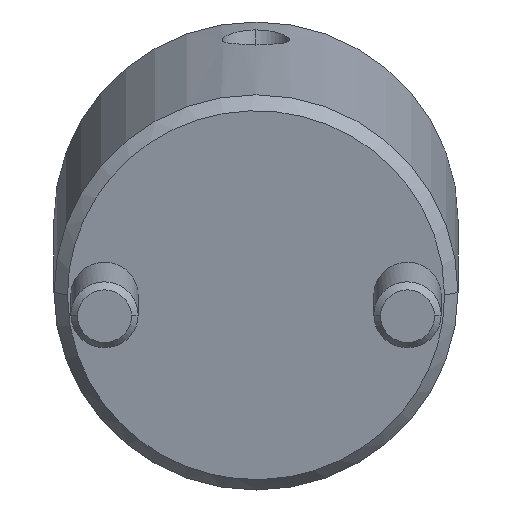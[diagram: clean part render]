
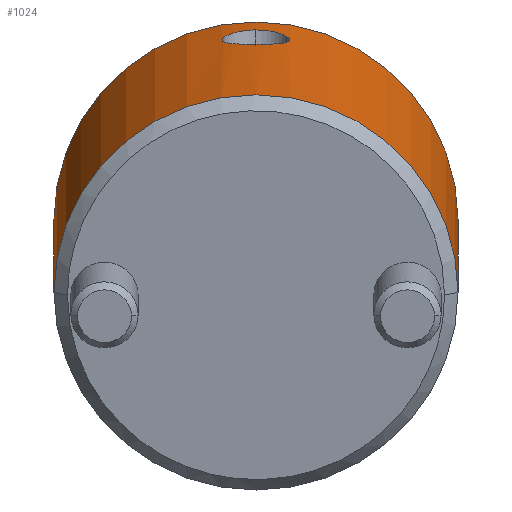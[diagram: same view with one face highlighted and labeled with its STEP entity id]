
A CAD part, front view. The second image highlights one B-rep face of the part: STEP entity #1024.
In plain terms, the highlighted cylindrical face has radius 15 mm (diameter 30 mm), a partial arc.
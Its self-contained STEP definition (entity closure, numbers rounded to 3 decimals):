
#790=CARTESIAN_POINT('Vertex',(0.,15.,1.)) ;
#793=CARTESIAN_POINT('Axis2P3D Location',(0.,0.,1.)) ;
#797=CARTESIAN_POINT('Vertex',(0.,-15.,1.)) ;
#937=CARTESIAN_POINT('Axis2P3D Location',(0.,0.,-1.4)) ;
#942=CARTESIAN_POINT('Line Origine',(0.,15.,-1.4)) ;
#946=CARTESIAN_POINT('Vertex',(0.,15.,27.)) ;
#949=CARTESIAN_POINT('Axis2P3D Location',(0.,0.,27.)) ;
#953=CARTESIAN_POINT('Vertex',(0.,-15.,27.)) ;
#956=CARTESIAN_POINT('Line Origine',(0.,-15.,-1.4)) ;
#968=CARTESIAN_POINT('Control Point',(15.,0.,24.158)) ;
#969=CARTESIAN_POINT('Control Point',(15.,0.223,24.158)) ;
#970=CARTESIAN_POINT('Control Point',(14.996,0.444,24.134)) ;
#971=CARTESIAN_POINT('Control Point',(14.987,0.669,24.078)) ;
#972=CARTESIAN_POINT('Control Point',(14.963,1.104,23.918)) ;
#973=CARTESIAN_POINT('Control Point',(14.928,1.484,23.664)) ;
#974=CARTESIAN_POINT('Control Point',(14.909,1.662,23.513)) ;
#975=CARTESIAN_POINT('Control Point',(14.876,1.931,23.23)) ;
#976=CARTESIAN_POINT('Control Point',(14.846,2.144,22.899)) ;
#977=CARTESIAN_POINT('Control Point',(14.835,2.22,22.758)) ;
#978=CARTESIAN_POINT('Control Point',(14.815,2.351,22.469)) ;
#979=CARTESIAN_POINT('Control Point',(14.801,2.437,22.162)) ;
#980=CARTESIAN_POINT('Control Point',(14.796,2.468,22.007)) ;
#981=CARTESIAN_POINT('Control Point',(14.784,2.538,21.458)) ;
#982=CARTESIAN_POINT('Control Point',(14.796,2.464,20.906)) ;
#983=CARTESIAN_POINT('Control Point',(14.819,2.335,20.531)) ;
#984=CARTESIAN_POINT('Control Point',(14.867,2.024,19.992)) ;
#985=CARTESIAN_POINT('Control Point',(14.919,1.572,19.578)) ;
#986=CARTESIAN_POINT('Control Point',(14.938,1.383,19.441)) ;
#987=CARTESIAN_POINT('Control Point',(14.969,1.009,19.231)) ;
#988=CARTESIAN_POINT('Control Point',(14.99,0.59,19.105)) ;
#989=CARTESIAN_POINT('Control Point',(14.997,0.391,19.065)) ;
#990=CARTESIAN_POINT('Control Point',(15.,0.196,19.047)) ;
#991=CARTESIAN_POINT('Control Point',(15.,0.,19.047)) ;
#992=CARTESIAN_POINT('Vertex',(15.,0.,24.158)) ;
#994=CARTESIAN_POINT('Vertex',(15.,0.,19.047)) ;
#998=CARTESIAN_POINT('Control Point',(15.,0.,19.047)) ;
#999=CARTESIAN_POINT('Control Point',(15.,-0.15,19.047)) ;
#1000=CARTESIAN_POINT('Control Point',(14.998,-0.301,19.057)) ;
#1001=CARTESIAN_POINT('Control Point',(14.994,-0.451,19.08)) ;
#1002=CARTESIAN_POINT('Control Point',(14.983,-0.754,19.15)) ;
#1003=CARTESIAN_POINT('Control Point',(14.965,-1.043,19.264)) ;
#1004=CARTESIAN_POINT('Control Point',(14.954,-1.179,19.331)) ;
#1005=CARTESIAN_POINT('Control Point',(14.909,-1.707,19.642)) ;
#1006=CARTESIAN_POINT('Control Point',(14.853,-2.125,20.104)) ;
#1007=CARTESIAN_POINT('Control Point',(14.815,-2.354,20.52)) ;
#1008=CARTESIAN_POINT('Control Point',(14.772,-2.606,21.452)) ;
#1009=CARTESIAN_POINT('Control Point',(14.803,-2.427,22.416)) ;
#1010=CARTESIAN_POINT('Control Point',(14.837,-2.225,22.87)) ;
#1011=CARTESIAN_POINT('Control Point',(14.892,-1.846,23.382)) ;
#1012=CARTESIAN_POINT('Control Point',(14.94,-1.351,23.749)) ;
#1013=CARTESIAN_POINT('Control Point',(14.951,-1.222,23.83)) ;
#1014=CARTESIAN_POINT('Control Point',(14.974,-0.915,23.992)) ;
#1015=CARTESIAN_POINT('Control Point',(14.991,-0.577,24.099)) ;
#1016=CARTESIAN_POINT('Control Point',(14.997,-0.384,24.14)) ;
#1017=CARTESIAN_POINT('Control Point',(15.,-0.193,24.158)) ;
#1018=CARTESIAN_POINT('Control Point',(15.,0.,24.158)) ;
#794=DIRECTION('Axis2P3D Direction',(0.,0.,1.)) ;
#938=DIRECTION('Axis2P3D Direction',(0.,-0.,1.)) ;
#939=DIRECTION('Axis2P3D XDirection',(0.,-1.,0.)) ;
#943=DIRECTION('Vector Direction',(0.,0.,1.)) ;
#950=DIRECTION('Axis2P3D Direction',(0.,-0.,1.)) ;
#957=DIRECTION('Vector Direction',(0.,0.,1.)) ;
#795=AXIS2_PLACEMENT_3D('Circle Axis2P3D',#793,#794,$) ;
#940=AXIS2_PLACEMENT_3D('Cylinder Axis2P3D',#937,#938,#939) ;
#951=AXIS2_PLACEMENT_3D('Circle Axis2P3D',#949,#950,$) ;
#962=ORIENTED_EDGE('',*,*,#948,.F.) ;
#963=ORIENTED_EDGE('',*,*,#955,.T.) ;
#964=ORIENTED_EDGE('',*,*,#960,.T.) ;
#965=ORIENTED_EDGE('',*,*,#799,.F.) ;
#1021=ORIENTED_EDGE('',*,*,#996,.T.) ;
#1022=ORIENTED_EDGE('',*,*,#1019,.T.) ;
#1023=FACE_BOUND('',#1020,.T.) ;
#944=VECTOR('Line Direction',#943,1.) ;
#958=VECTOR('Line Direction',#957,1.) ;
#1024=ADVANCED_FACE('MANIFOLD_SOLID_BREP #1106',(#966,#1023),#941,.T.) ;
#967=B_SPLINE_CURVE_WITH_KNOTS('',5,(#968,#969,#970,#971,#972,#973,#974,#975,#976,#977,#978,#979,#980,#981,#982,#983,#984,#985,#986,#987,#988,#989,#990,#991),.UNSPECIFIED.,.F.,.U.,(6,3,3,3,3,3,3,6),(0.,1.614,3.274,4.384,5.483,8.212,9.837,11.252),.UNSPECIFIED.) ;
#997=B_SPLINE_CURVE_WITH_KNOTS('',5,(#998,#999,#1000,#1001,#1002,#1003,#1004,#1005,#1006,#1007,#1008,#1009,#1010,#1011,#1012,#1013,#1014,#1015,#1016,#1017,#1018),.UNSPECIFIED.,.F.,.U.,(6,3,3,3,3,3,6),(0.,1.095,2.187,5.473,8.792,9.874,11.262),.UNSPECIFIED.) ;
#796=CIRCLE('generated circle',#795,15.) ;
#952=CIRCLE('generated circle',#951,15.) ;
#941=CYLINDRICAL_SURFACE('generated cylinder',#940,15.) ;
#799=EDGE_CURVE('',#791,#798,#796,.F.) ;
#948=EDGE_CURVE('',#947,#791,#945,.F.) ;
#955=EDGE_CURVE('',#947,#954,#952,.F.) ;
#960=EDGE_CURVE('',#954,#798,#959,.F.) ;
#996=EDGE_CURVE('',#993,#995,#967,.T.) ;
#1019=EDGE_CURVE('',#995,#993,#997,.T.) ;
#961=EDGE_LOOP('',(#962,#963,#964,#965)) ;
#1020=EDGE_LOOP('',(#1021,#1022)) ;
#966=FACE_OUTER_BOUND('',#961,.T.) ;
#945=LINE('Line',#942,#944) ;
#959=LINE('Line',#956,#958) ;
#791=VERTEX_POINT('',#790) ;
#798=VERTEX_POINT('',#797) ;
#947=VERTEX_POINT('',#946) ;
#954=VERTEX_POINT('',#953) ;
#993=VERTEX_POINT('',#992) ;
#995=VERTEX_POINT('',#994) ;
